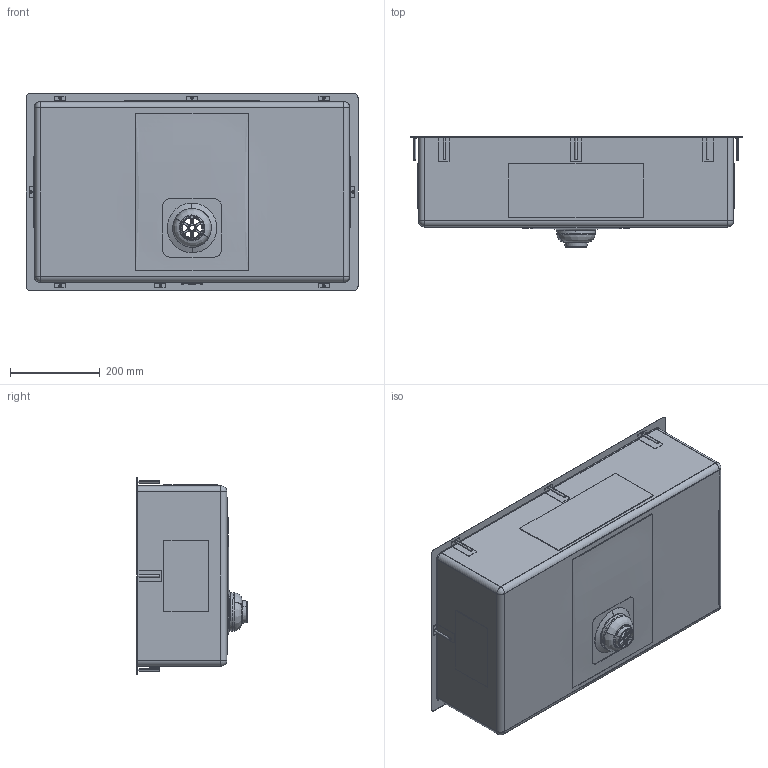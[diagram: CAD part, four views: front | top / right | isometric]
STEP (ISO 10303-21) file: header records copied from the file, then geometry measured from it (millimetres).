
FILE_DESCRIPTION((''),'2;1');
FILE_NAME('1149927_ASM','2025-01-14T07:50:14',('rafaelz'),('Audax d.o.o.'),'CREO PARAMETRIC BY PTC INC, 2020184','CREO PARAMETRIC BY PTC INC, 2020184','');
FILE_SCHEMA(('AP242_MANAGED_MODEL_BASED_3D_ENGINEERING_MIM_LF { 1 0 10303 442 1 1 4 }'));
Products named in the file (15): DEFORMA1; _130_AA_-_RACCORDO1_-11086; _130_AA_-_RACCORDO1_-11662; _130_AA_-_RACCORDO1_-24037; _130_AA_-_RACCORDO1_-24607; _130_AA_-_RACCORDO1_-24680; _130_AA_-_RACCORDO1_-25112; _210_AB_-_160_X100_-_ESTR-25969; _TAPP_BA70-_FORO_DEFORMATO_-_DE; _210_AB_-_160_X100_-_ESTR-38922; _130_AA_-_RACCORDO1_-39481; _210_AC_-_300_X_120_-_ESTRUSION; _130_AA_-_RACCORDO1_-40332; BA7021I_-_ALVEUS_-_RENDER_TUTTO_ASM; 1149927_ASM
Assembly tree (14 placements, depth 3):
  1149927_ASM
    BA7021I_-_ALVEUS_-_RENDER_TUTTO_ASM
      DEFORMA1
      _130_AA_-_RACCORDO1_-11086
      _130_AA_-_RACCORDO1_-11662
      _130_AA_-_RACCORDO1_-24037
      _130_AA_-_RACCORDO1_-24607
      _130_AA_-_RACCORDO1_-24680
      _130_AA_-_RACCORDO1_-25112
      _210_AB_-_160_X100_-_ESTR-25969
      _TAPP_BA70-_FORO_DEFORMATO_-_DE
      _210_AB_-_160_X100_-_ESTR-38922
      _130_AA_-_RACCORDO1_-39481
      _210_AC_-_300_X_120_-_ESTRUSION
      _130_AA_-_RACCORDO1_-40332
Bounding box: 740 x 246.86 x 440 mm (x, y, z)
Volume: 1035775.3 mm3; surface area: 1829214.8 mm2
Topology: 13 solids, 13 shells, 570 faces, 1495 edges, 996 vertices
Faces by surface type: cylinder 183, plane 172, bspline 139, torus 32, cone 20, extrusion 12, sphere 12
Entity records: 46594 total; most frequent: CARTESIAN_POINT 25119, ORIENTED_EDGE 2860, DIRECTION 2808, EDGE_CURVE 1430, PROPERTY_DEFINITION 1084, AXIS2_PLACEMENT_3D 1077, REPRESENTATION 1071, PROPERTY_DEFINITION_REPRESENTATION 1071
